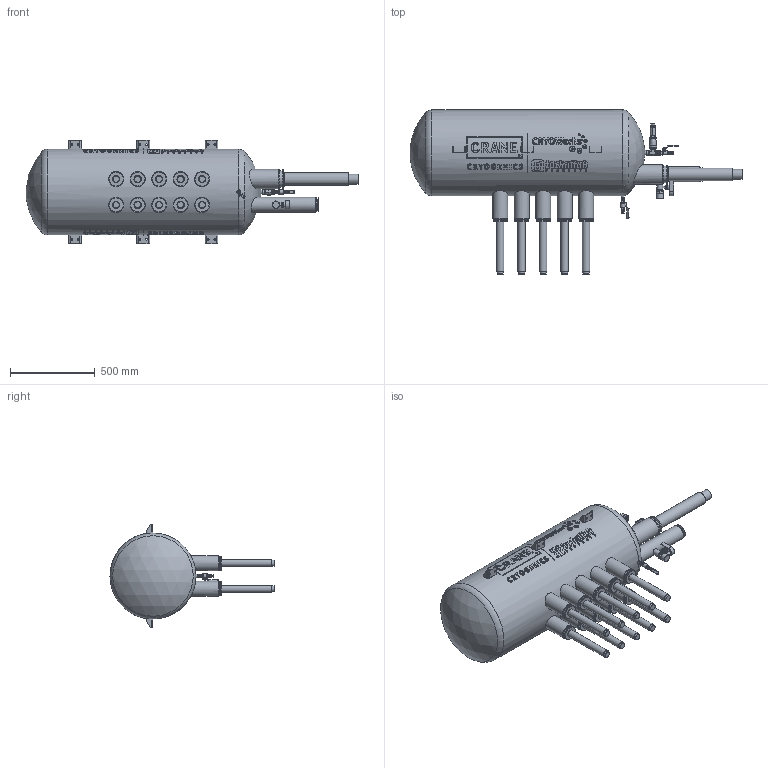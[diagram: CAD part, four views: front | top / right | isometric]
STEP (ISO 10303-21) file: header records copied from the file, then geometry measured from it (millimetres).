
FILE_DESCRIPTION (( 'STEP AP203' ), '1' );
FILE_NAME ('CA01732 CryoWorks High Flow Phase Separator 10 Outlet REV E.STEP', '2026-02-06T22:03:01', ( '' ), ( '' ), 'SwSTEP 2.0', 'SolidWorks 2023', '' );
FILE_SCHEMA (( 'CONFIG_CONTROL_DESIGN' ));
Length unit declared in the file: inch
Products named in the file (1): CA01732 CryoWorks High Flow Phase Separator 10 Outlet  REV E
Bounding box: 1962.66 x 969.96 x 611.06 mm (x, y, z)
Volume: 281087558.5 mm3; surface area: 3786893 mm2
Topology: 1 solids, 13 shells, 2577 faces, 6463 edges, 4156 vertices
Faces by surface type: plane 1201, cylinder 677, cone 458, bspline 202, torus 27, sphere 12
Full cylindrical faces by diameter (mm): 4.66 x2, 4.75 x2, 4.775 x1, 5.105 x2, 5.527 x14, 5.546 x2, 6.221 x14, 6.272 x4, 6.35 x4, 6.362 x2, 7.112 x1, 7.183 x2, 7.976 x2, 9.188 x2, 9.246 x3, 9.257 x2, 9.525 x12, 9.58 x2, 9.842 x2, 10.262 x1, 10.635 x2, 11.1 x1, 11.112 x6, 11.333 x2, 11.879 x2, 12.494 x2, 12.508 x2, 12.7 x1, 13.494 x2, 14.267 x2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
Entity records: 177849 total; most frequent: CARTESIAN_POINT 122865, ORIENTED_EDGE 11714, DIRECTION 10063, EDGE_CURVE 5857, VERTEX_POINT 3984, AXIS2_PLACEMENT_3D 3851, EDGE_LOOP 3339, FACE_OUTER_BOUND 2807
